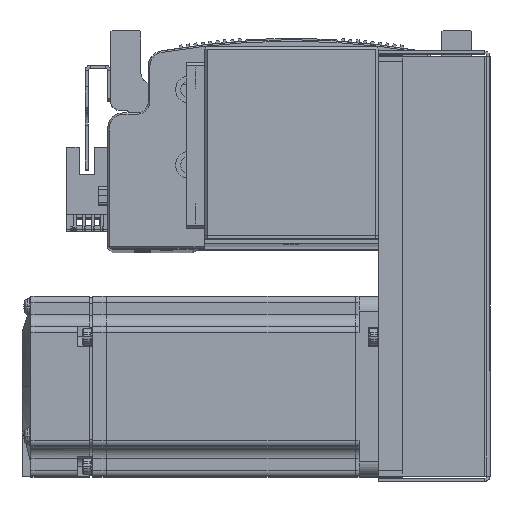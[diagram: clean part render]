
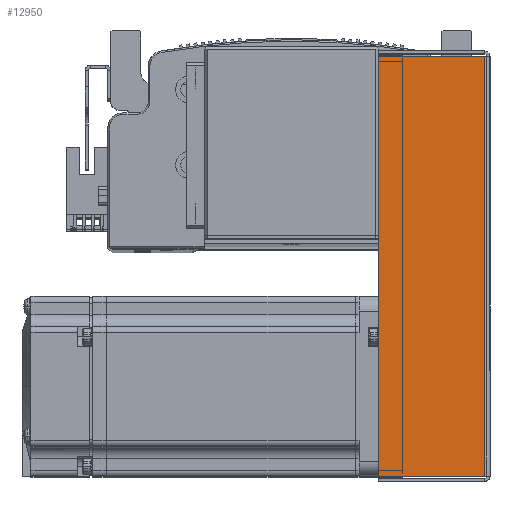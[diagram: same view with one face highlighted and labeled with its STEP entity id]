
A CAD part, top view. The second image highlights one B-rep face of the part: STEP entity #12950.
In plain terms, the highlighted planar face has unit normal (0, 0, 1).
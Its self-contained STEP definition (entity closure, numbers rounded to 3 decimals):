
#12950 = ADVANCED_FACE ( 'NONE', ( #36089 ), #81456, .F. ) ;
#20233 = ORIENTED_EDGE ( 'NONE', *, *, #35756, .T. ) ;
#20288 = ORIENTED_EDGE ( 'NONE', *, *, #35684, .T. ) ;
#20296 = ORIENTED_EDGE ( 'NONE', *, *, #35650, .F. ) ;
#20327 = ORIENTED_EDGE ( 'NONE', *, *, #35730, .F. ) ;
#21454 = DIRECTION ( 'NONE',  ( -1., 0., 0. ) ) ;
#21471 = CARTESIAN_POINT ( 'NONE',  ( -71.5, 0.737, 33.5 ) ) ;
#21559 = CARTESIAN_POINT ( 'NONE',  ( 69.793, 0., 33.5 ) ) ;
#21561 = DIRECTION ( 'NONE',  ( 0., 1., 0. ) ) ;
#21647 = CARTESIAN_POINT ( 'NONE',  ( -69.793, 0., 33.5 ) ) ;
#21691 = DIRECTION ( 'NONE',  ( 0., 1., 0. ) ) ;
#21712 = DIRECTION ( 'NONE',  ( -1., 0., 0. ) ) ;
#21726 = CARTESIAN_POINT ( 'NONE',  ( 0., 36., 33.5 ) ) ;
#24671 = EDGE_LOOP ( 'NONE', ( #20296, #20288, #20233, #20327 ) ) ;
#35650 = EDGE_CURVE ( 'NONE', #52682, #52789, #40812, .T. ) ;
#35684 = EDGE_CURVE ( 'NONE', #52682, #52740, #40871, .T. ) ;
#35730 = EDGE_CURVE ( 'NONE', #52789, #52735, #40946, .T. ) ;
#35756 = EDGE_CURVE ( 'NONE', #52740, #52735, #40908, .T. ) ;
#36089 = FACE_OUTER_BOUND ( 'NONE', #24671, .T. ) ;
#40778 = VECTOR ( 'NONE', #21454, 1000. ) ;
#40812 = LINE ( 'NONE', #21471, #40778 ) ;
#40860 = VECTOR ( 'NONE', #21561, 1000. ) ;
#40871 = LINE ( 'NONE', #21559, #40860 ) ;
#40908 = LINE ( 'NONE', #21726, #40909 ) ;
#40909 = VECTOR ( 'NONE', #21712, 1000. ) ;
#40946 = LINE ( 'NONE', #21647, #40961 ) ;
#40961 = VECTOR ( 'NONE', #21691, 1000. ) ;
#52682 = VERTEX_POINT ( 'NONE', #60109 ) ;
#52735 = VERTEX_POINT ( 'NONE', #60235 ) ;
#52740 = VERTEX_POINT ( 'NONE', #60304 ) ;
#52789 = VERTEX_POINT ( 'NONE', #60269 ) ;
#60109 = CARTESIAN_POINT ( 'NONE',  ( 69.793, 0.737, 33.5 ) ) ;
#60235 = CARTESIAN_POINT ( 'NONE',  ( -69.793, 36., 33.5 ) ) ;
#60269 = CARTESIAN_POINT ( 'NONE',  ( -69.793, 0.737, 33.5 ) ) ;
#60304 = CARTESIAN_POINT ( 'NONE',  ( 69.793, 36., 33.5 ) ) ;
#81410 = CARTESIAN_POINT ( 'NONE',  ( 0., 0., 33.5 ) ) ;
#81456 = PLANE ( 'NONE',  #85441 ) ;
#81502 = DIRECTION ( 'NONE',  ( 0., 0., -1. ) ) ;
#81505 = DIRECTION ( 'NONE',  ( -1., 0., 0. ) ) ;
#85441 = AXIS2_PLACEMENT_3D ( 'NONE', #81410, #81502, #81505 ) ;
